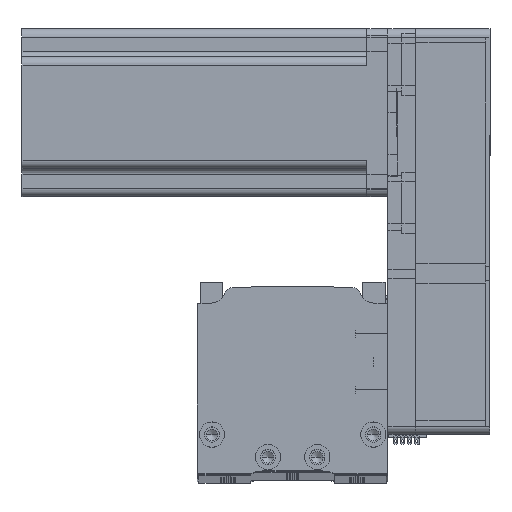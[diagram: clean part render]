
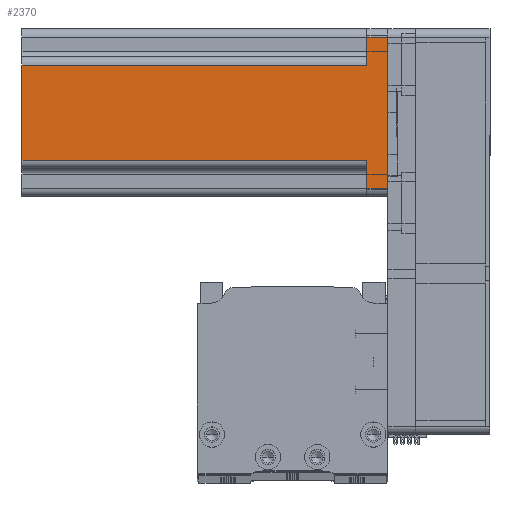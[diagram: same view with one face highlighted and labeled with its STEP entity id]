
A CAD part, top view. The second image highlights one B-rep face of the part: STEP entity #2370.
In plain terms, the highlighted planar face has unit normal (0, 0, 1) as drawn and (0, -1, 0) by its records, which use the part's own axes.
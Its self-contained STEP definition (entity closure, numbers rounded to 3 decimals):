
#346 = VERTEX_POINT ( 'NONE', #26814 ) ;
#664 = VECTOR ( 'NONE', #19346, 1000. ) ;
#823 = VERTEX_POINT ( 'NONE', #20652 ) ;
#968 = LINE ( 'NONE', #28333, #9881 ) ;
#1671 = ORIENTED_EDGE ( 'NONE', *, *, #5609, .T. ) ;
#2370 = ADVANCED_FACE ( 'NONE', ( #8155 ), #26586, .F. ) ;
#2422 = DIRECTION ( 'NONE',  ( 0., 0., 1. ) ) ;
#2550 = DIRECTION ( 'NONE',  ( 0., 0., 1. ) ) ;
#3379 = ORIENTED_EDGE ( 'NONE', *, *, #41501, .T. ) ;
#4010 = DIRECTION ( 'NONE',  ( 0., 1., 0. ) ) ;
#4322 = VECTOR ( 'NONE', #30703, 1000. ) ;
#4336 = EDGE_CURVE ( 'NONE', #18544, #346, #10343, .T. ) ;
#5609 = EDGE_CURVE ( 'NONE', #8589, #24955, #26940, .T. ) ;
#6732 = VECTOR ( 'NONE', #13175, 1000. ) ;
#8155 = FACE_OUTER_BOUND ( 'NONE', #37344, .T. ) ;
#8171 = CARTESIAN_POINT ( 'NONE',  ( 27., -30., 0. ) ) ;
#8589 = VERTEX_POINT ( 'NONE', #20745 ) ;
#9881 = VECTOR ( 'NONE', #32292, 1000. ) ;
#10343 = LINE ( 'NONE', #17621, #18743 ) ;
#10786 = LINE ( 'NONE', #42111, #664 ) ;
#12023 = EDGE_CURVE ( 'NONE', #32852, #823, #17750, .T. ) ;
#13175 = DIRECTION ( 'NONE',  ( 0., 0., -1. ) ) ;
#13838 = CARTESIAN_POINT ( 'NONE',  ( 17., -30., 130.7 ) ) ;
#15154 = VERTEX_POINT ( 'NONE', #43753 ) ;
#15416 = ORIENTED_EDGE ( 'NONE', *, *, #40350, .T. ) ;
#15923 = VECTOR ( 'NONE', #17020, 1000. ) ;
#15987 = CARTESIAN_POINT ( 'NONE',  ( -17., -30., 130.7 ) ) ;
#17020 = DIRECTION ( 'NONE',  ( 1., 0., 0. ) ) ;
#17621 = CARTESIAN_POINT ( 'NONE',  ( 27., -30., 130.7 ) ) ;
#17750 = LINE ( 'NONE', #15987, #37942 ) ;
#18544 = VERTEX_POINT ( 'NONE', #8171 ) ;
#18743 = VECTOR ( 'NONE', #2550, 1000. ) ;
#19346 = DIRECTION ( 'NONE',  ( 1., 0., 0. ) ) ;
#19841 = ORIENTED_EDGE ( 'NONE', *, *, #12023, .T. ) ;
#20059 = ORIENTED_EDGE ( 'NONE', *, *, #46619, .F. ) ;
#20652 = CARTESIAN_POINT ( 'NONE',  ( -17., -30., 7.5 ) ) ;
#20745 = CARTESIAN_POINT ( 'NONE',  ( -27., -30., 7.5 ) ) ;
#21629 = EDGE_CURVE ( 'NONE', #8589, #823, #24490, .T. ) ;
#22603 = CARTESIAN_POINT ( 'NONE',  ( 17., -30., 130.7 ) ) ;
#24490 = LINE ( 'NONE', #45871, #4322 ) ;
#24955 = VERTEX_POINT ( 'NONE', #38410 ) ;
#25701 = ORIENTED_EDGE ( 'NONE', *, *, #25736, .T. ) ;
#25736 = EDGE_CURVE ( 'NONE', #15154, #45996, #48599, .T. ) ;
#26058 = CARTESIAN_POINT ( 'NONE',  ( -17., -30., 130.7 ) ) ;
#26586 = PLANE ( 'NONE',  #34017 ) ;
#26814 = CARTESIAN_POINT ( 'NONE',  ( 27., -30., 7.5 ) ) ;
#26940 = LINE ( 'NONE', #47617, #6732 ) ;
#28291 = VECTOR ( 'NONE', #2422, 1000. ) ;
#28333 = CARTESIAN_POINT ( 'NONE',  ( 20., -30., 7.5 ) ) ;
#28949 = ORIENTED_EDGE ( 'NONE', *, *, #4336, .T. ) ;
#29213 = ORIENTED_EDGE ( 'NONE', *, *, #21629, .F. ) ;
#30364 = CARTESIAN_POINT ( 'NONE',  ( 30., -30., 130.7 ) ) ;
#30522 = DIRECTION ( 'NONE',  ( -1., 0., 0. ) ) ;
#30703 = DIRECTION ( 'NONE',  ( 1., 0., 0. ) ) ;
#32292 = DIRECTION ( 'NONE',  ( -1., 0., 0. ) ) ;
#32852 = VERTEX_POINT ( 'NONE', #26058 ) ;
#34017 = AXIS2_PLACEMENT_3D ( 'NONE', #30364, #4010, #30522 ) ;
#37344 = EDGE_LOOP ( 'NONE', ( #20059, #19841, #29213, #1671, #15416, #28949, #3379, #25701 ) ) ;
#37942 = VECTOR ( 'NONE', #42614, 1000. ) ;
#38410 = CARTESIAN_POINT ( 'NONE',  ( -27., -30., 0. ) ) ;
#40350 = EDGE_CURVE ( 'NONE', #24955, #18544, #45108, .T. ) ;
#41501 = EDGE_CURVE ( 'NONE', #346, #15154, #968, .T. ) ;
#42111 = CARTESIAN_POINT ( 'NONE',  ( 30., -30., 130.7 ) ) ;
#42614 = DIRECTION ( 'NONE',  ( 0., 0., -1. ) ) ;
#43624 = CARTESIAN_POINT ( 'NONE',  ( 30., -30., 0. ) ) ;
#43753 = CARTESIAN_POINT ( 'NONE',  ( 17., -30., 7.5 ) ) ;
#45108 = LINE ( 'NONE', #43624, #15923 ) ;
#45871 = CARTESIAN_POINT ( 'NONE',  ( -20., -30., 7.5 ) ) ;
#45996 = VERTEX_POINT ( 'NONE', #22603 ) ;
#46619 = EDGE_CURVE ( 'NONE', #32852, #45996, #10786, .T. ) ;
#47617 = CARTESIAN_POINT ( 'NONE',  ( -27., -30., 130.7 ) ) ;
#48599 = LINE ( 'NONE', #13838, #28291 ) ;
